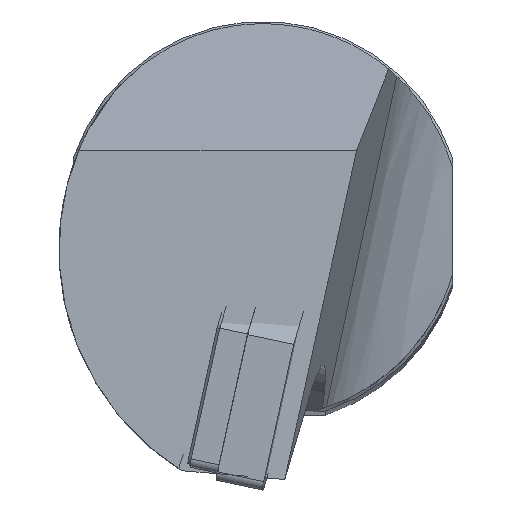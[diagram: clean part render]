
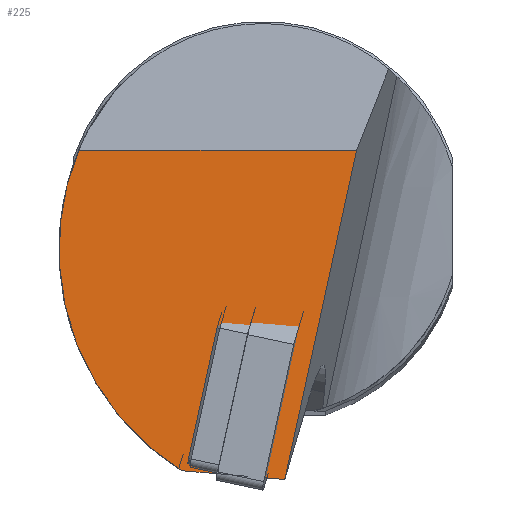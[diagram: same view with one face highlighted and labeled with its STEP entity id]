
A CAD part, top view. The second image highlights one B-rep face of the part: STEP entity #225.
In plain terms, the highlighted planar face has unit normal (0, 0.053, 0.999).
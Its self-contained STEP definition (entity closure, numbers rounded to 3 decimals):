
#120=ELLIPSE('',#973,26.123,26.086);
#225=ADVANCED_FACE('',(#299),#270,.F.);
#270=PLANE('',#974);
#299=FACE_OUTER_BOUND('',#349,.T.);
#349=EDGE_LOOP('',(#448,#449,#450,#451));
#448=ORIENTED_EDGE('',*,*,#739,.T.);
#449=ORIENTED_EDGE('',*,*,#740,.F.);
#450=ORIENTED_EDGE('',*,*,#741,.T.);
#451=ORIENTED_EDGE('',*,*,#742,.F.);
#654=VERTEX_POINT('',#1377);
#655=VERTEX_POINT('',#1378);
#656=VERTEX_POINT('',#1380);
#657=VERTEX_POINT('',#1382);
#739=EDGE_CURVE('',#654,#655,#841,.T.);
#740=EDGE_CURVE('',#656,#655,#842,.T.);
#741=EDGE_CURVE('',#656,#657,#843,.T.);
#742=EDGE_CURVE('',#654,#657,#120,.T.);
#841=LINE('',#1376,#902);
#842=LINE('',#1379,#903);
#843=LINE('',#1381,#904);
#902=VECTOR('',#1108,1.);
#903=VECTOR('',#1109,1.);
#904=VECTOR('',#1110,1.);
#973=AXIS2_PLACEMENT_3D('',#1383,#1111,#1112);
#974=AXIS2_PLACEMENT_3D('',#1384,#1113,#1114);
#1108=DIRECTION('',(0.996,-0.085,0.005));
#1109=DIRECTION('',(-0.213,-0.976,0.052));
#1110=DIRECTION('',(-1.,0.,0.));
#1111=DIRECTION('',(0.,-0.053,-0.999));
#1112=DIRECTION('',(0.,-0.999,0.053));
#1113=DIRECTION('',(0.,-0.053,-0.999));
#1114=DIRECTION('',(0.,0.999,-0.053));
#1376=CARTESIAN_POINT('',(-25.034,-23.627,-0.281));
#1377=CARTESIAN_POINT('',(-8.113,-25.068,-0.204));
#1378=CARTESIAN_POINT('',(2.179,-25.945,-0.158));
#1379=CARTESIAN_POINT('',(14.561,30.809,-3.186));
#1380=CARTESIAN_POINT('',(9.367,7.,-1.916));
#1381=CARTESIAN_POINT('',(-26.7,7.,-1.916));
#1382=CARTESIAN_POINT('',(-18.447,7.,-1.916));
#1383=CARTESIAN_POINT('',(5.677,-2.925,-1.386));
#1384=CARTESIAN_POINT('',(-26.7,-43.12,0.759));
